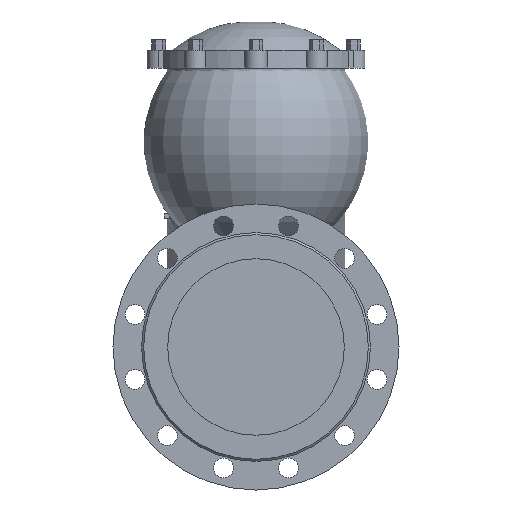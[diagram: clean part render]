
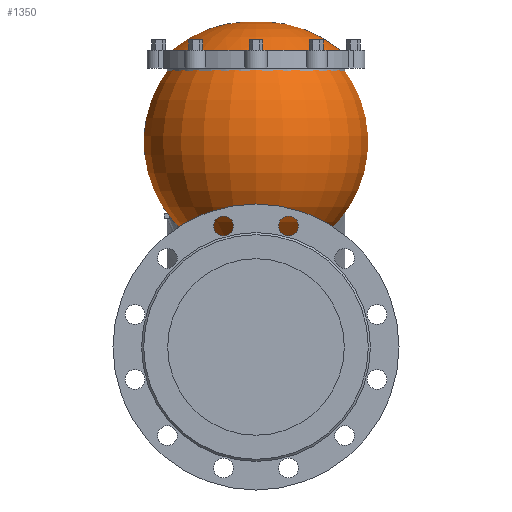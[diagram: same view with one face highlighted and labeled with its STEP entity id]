
A CAD part, left-side view. The second image highlights one B-rep face of the part: STEP entity #1350.
In plain terms, the highlighted toroidal (fillet/blend) face has major radius 10.1 mm and minor radius 170 mm.
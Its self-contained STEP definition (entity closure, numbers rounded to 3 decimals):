
#1350=ADVANCED_FACE('',(#3763),#3765,.T.);
#3763=FACE_OUTER_BOUND('',#3764,.T.);
#3764=EDGE_LOOP('',(#4766));
#3765=DEGENERATE_TOROIDAL_SURFACE('',#3766,10.1,170.,.T.);
#3766=AXIS2_PLACEMENT_3D('',#3767,#3768,#3769);
#3767=CARTESIAN_POINT('',(-274.582,0.,290.3));
#3768=DIRECTION('',(0.,0.,-1.));
#3769=DIRECTION('',(-1.,0.,0.));
#4766=ORIENTED_EDGE('',*,*,#5799,.T.);
#5799=EDGE_CURVE('',#6413,#6413,#6414,.F.);
#6413=VERTEX_POINT('',#8774);
#6414=CIRCLE('',#8775,120.);
#8774=CARTESIAN_POINT('',(-394.582,0.,420.));
#8775=AXIS2_PLACEMENT_3D('',#8776,#8777,#8778);
#8776=CARTESIAN_POINT('',(-274.582,0.,420.));
#8777=DIRECTION('',(-0.,-0.,-1.));
#8778=DIRECTION('',(-1.,0.,0.));
